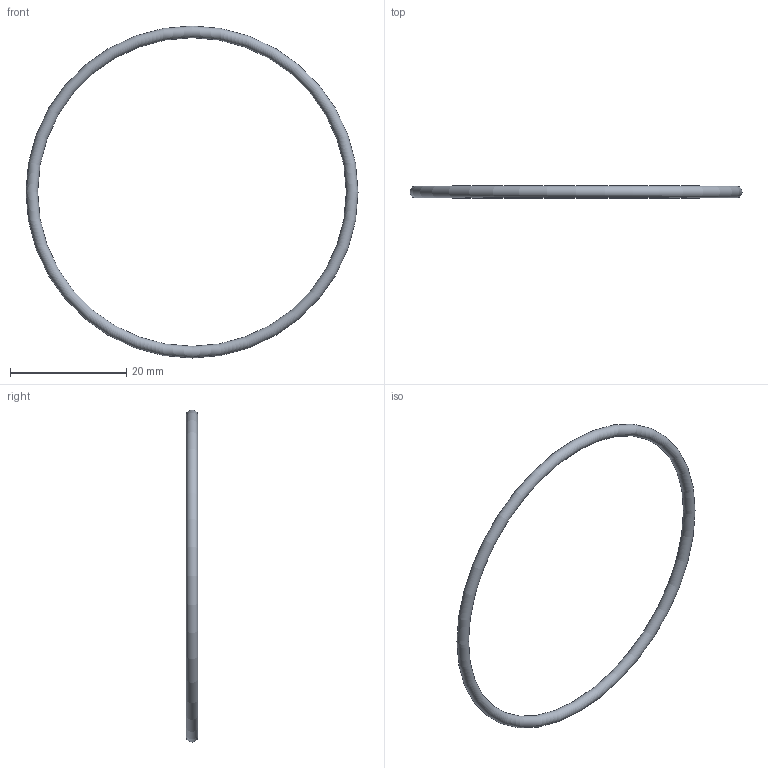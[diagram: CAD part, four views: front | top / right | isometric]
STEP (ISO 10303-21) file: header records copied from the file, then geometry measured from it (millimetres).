
FILE_DESCRIPTION( ( 'STEP AP203' ), '1' );
FILE_NAME( 'C:/Temp/Ganter_Step_05_03_2020/data/3_5/or638/O-Ring OR638-53.00-2.00-70.stp', '2020-03-12T13:44:23', ( 'License CC BY-ND 4.0' ), ( 'CADENAS' ), ' ', 'PARTsolutions', ' ' );
FILE_SCHEMA( ( 'CONFIG_CONTROL_DESIGN' ) );
Length unit declared in the file: millimetre
Products named in the file (1): _O-Ring OR638-53.00-2.00-70
Bounding box: 57 x 2 x 57 mm (x, y, z)
Volume: 542.8 mm3; surface area: 1085.7 mm2
Topology: 1 solids, 1 shells, 1 faces, 2 edges, 1 vertices
Faces by surface type: torus 1
Entity records: 62 total; most frequent: CC_DESIGN_PERSON_AND_ORGANIZATION_ASSIGNMENT 5, PERSON_AND_ORGANIZATION_ROLE 4, DIRECTION 4, CARTESIAN_POINT 3, DATE_TIME_ROLE 2, CC_DESIGN_DATE_AND_TIME_ASSIGNMENT 2, AXIS2_PLACEMENT_3D 2, DIMENSIONAL_EXPONENTS 2
